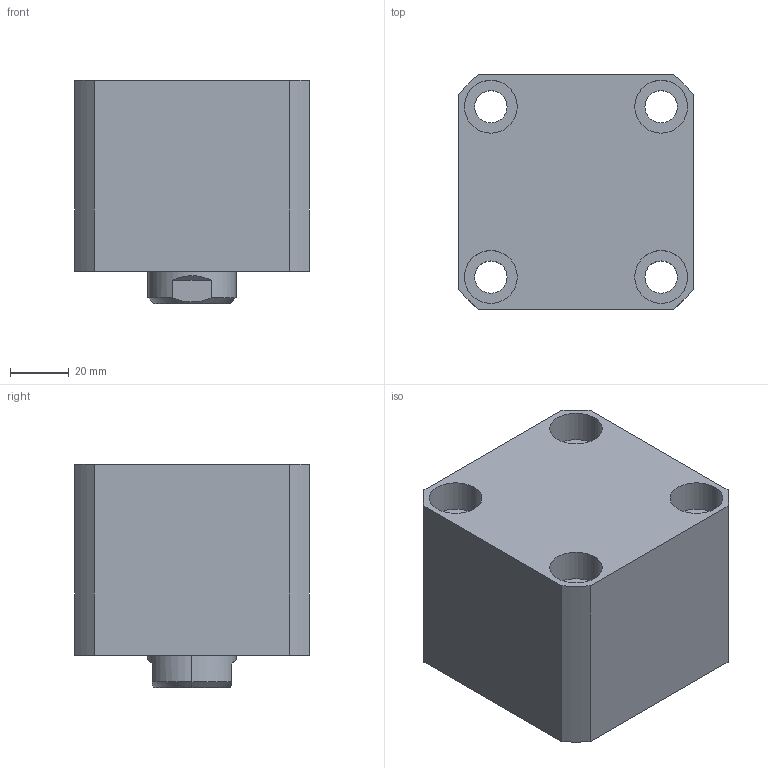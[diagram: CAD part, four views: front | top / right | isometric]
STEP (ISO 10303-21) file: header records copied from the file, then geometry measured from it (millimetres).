
FILE_DESCRIPTION (( 'STEP AP203' ), '1' );
FILE_NAME ('CHTB-SD50x5N.STEP', '2018-05-18T11:21:25', ( '' ), ( '' ), 'SwSTEP 2.0', 'SolidWorks 2015', '' );
FILE_SCHEMA (( 'CONFIG_CONTROL_DESIGN' ));
Length unit declared in the file: millimetre
Products named in the file (4): 活塞杆SD50-5N; CHTB-SD50x5N; 掛极SD50-5W; CHTM-SD50QG
Assembly tree (3 placements, depth 2):
  CHTB-SD50x5N
    掛极SD50-5W
    CHTM-SD50QG
    活塞杆SD50-5N
Bounding box: 80 x 80 x 76 mm (x, y, z)
Volume: 358651.9 mm3; surface area: 81888.6 mm2
Topology: 3 solids, 3 shells, 194 faces, 499 edges, 330 vertices
Faces by surface type: cylinder 104, plane 39, cone 21, torus 16, bspline 14
Entity records: 10789 total; most frequent: CARTESIAN_POINT 5840, ORIENTED_EDGE 986, DIRECTION 914, EDGE_CURVE 493, AXIS2_PLACEMENT_3D 383, VERTEX_POINT 330, EDGE_LOOP 233, CIRCLE 197
